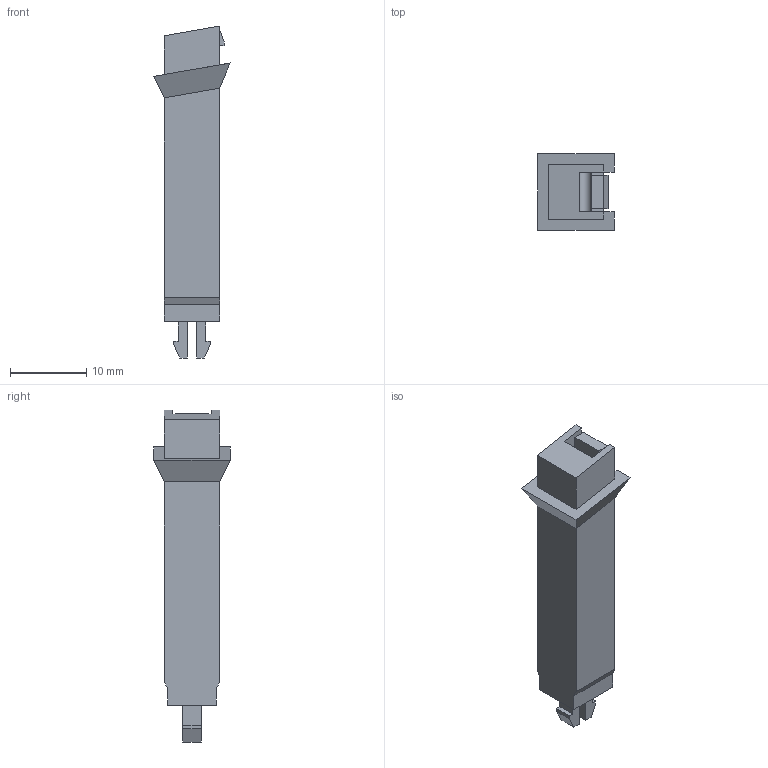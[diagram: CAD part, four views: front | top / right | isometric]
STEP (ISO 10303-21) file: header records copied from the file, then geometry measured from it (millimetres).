
FILE_DESCRIPTION(('Open CASCADE Model'),'2;1');
FILE_NAME('Open CASCADE Shape Model','2026-11-15T18:32:39',('Author'),( 'Open CASCADE'),'Open CASCADE STEP processor 7.9','Open CASCADE 7.9' ,'Unknown');
FILE_SCHEMA(('AUTOMOTIVE_DESIGN { 1 0 10303 214 1 1 1 1 }'));
Length unit declared in the file: millimetre
Products named in the file (1): Open CASCADE STEP translator 7.9 6
Bounding box: 10 x 10 x 43.41 mm (x, y, z)
Volume: 1834.4 mm3; surface area: 1772.7 mm2
Topology: 1 solids, 1 shells, 56 faces, 148 edges, 96 vertices
Faces by surface type: plane 49, bspline 5, cylinder 2
Entity records: 3606 total; most frequent: CARTESIAN_POINT 796, DIRECTION 452, LINE 332, VECTOR 332, ORIENTED_EDGE 296, PCURVE 296, DEFINITIONAL_REPRESENTATION 296, EDGE_CURVE 148
